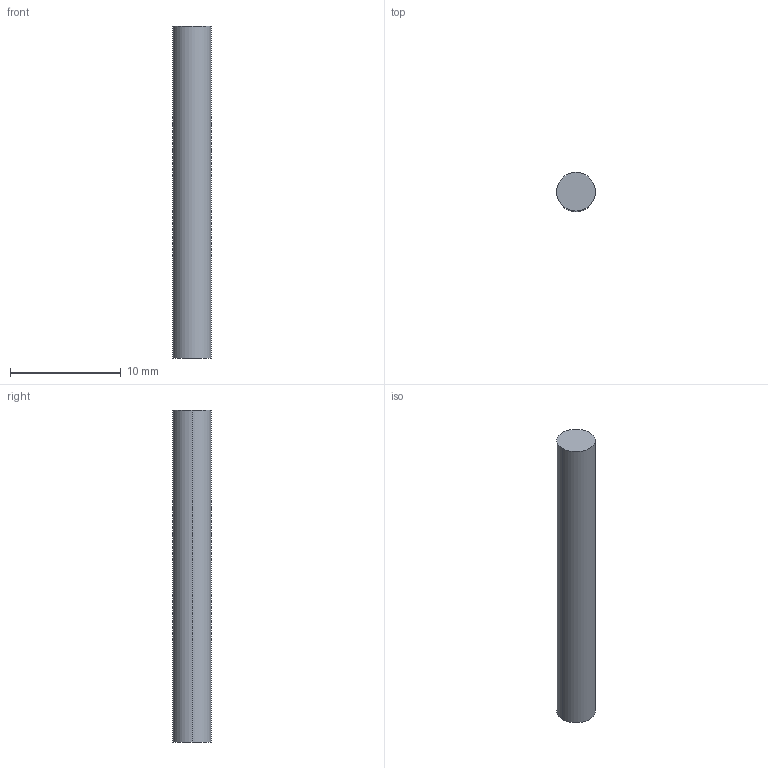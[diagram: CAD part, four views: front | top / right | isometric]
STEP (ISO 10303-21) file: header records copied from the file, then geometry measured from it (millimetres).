
FILE_DESCRIPTION (( 'STEP AP214' ), '1' );
FILE_NAME ('v1_v2_shaft.STEP', '2025-12-10T22:52:44', ( '' ), ( '' ), 'SwSTEP 2.0', 'SolidWorks 2023', '' );
FILE_SCHEMA (( 'AUTOMOTIVE_DESIGN' ));
Length unit declared in the file: millimetre
Products named in the file (1): v1_v2_shaft
Bounding box: 3.5 x 3.5 x 30 mm (x, y, z)
Volume: 288.6 mm3; surface area: 349.1 mm2
Topology: 1 solids, 1 shells, 4 faces, 6 edges, 4 vertices
Faces by surface type: cylinder 2, plane 2
Entity records: 117 total; most frequent: DIRECTION 20, CARTESIAN_POINT 15, ORIENTED_EDGE 12, AXIS2_PLACEMENT_3D 9, EDGE_CURVE 6, ADVANCED_FACE 4, CIRCLE 4, FACE_OUTER_BOUND 4
